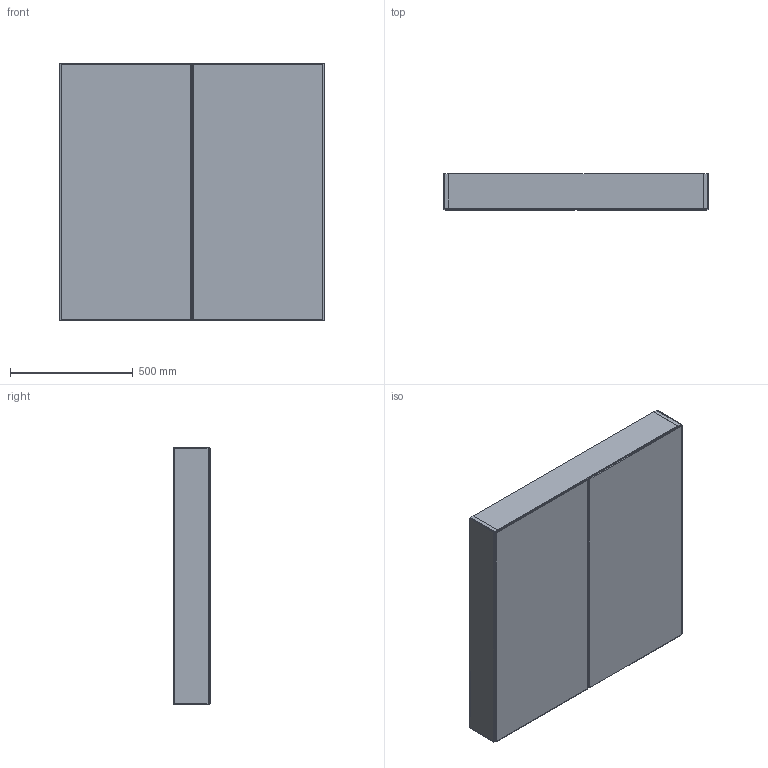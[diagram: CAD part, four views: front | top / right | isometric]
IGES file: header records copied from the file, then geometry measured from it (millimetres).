
Start section: Data from Parasolid IGES Translator 19.0.9, Copyright(c) 2006 Siemens PL M Software. All Rights Reserved.
Global section: file name: noorth-mirror-H 105 D 14,7 W 108_9075.igs; native system: By Siemens PLM Incorporated; preprocessor: XPlus GENERIC/IGES 19.0.9; author: Noname; organization: Noname; date: 20200519.100132; units: metre
Bounding box: 1079.82 x 147 x 1050 mm (x, y, z)
Volume: 23146732.5 mm3; surface area: 7214894.2 mm2
Topology: 13 solids, 13 shells, 222 faces, 420 edges, 224 vertices
Faces by surface type: plane 222
